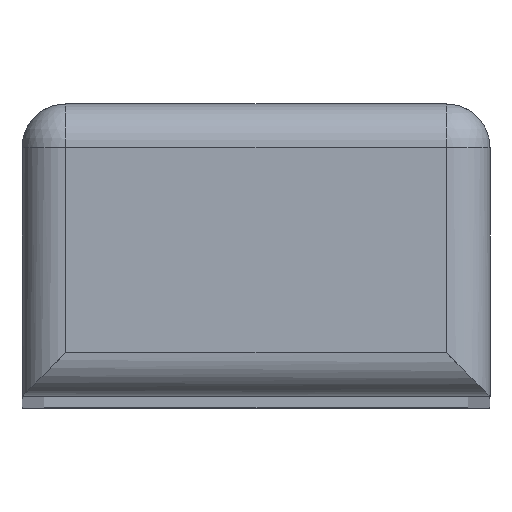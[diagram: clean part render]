
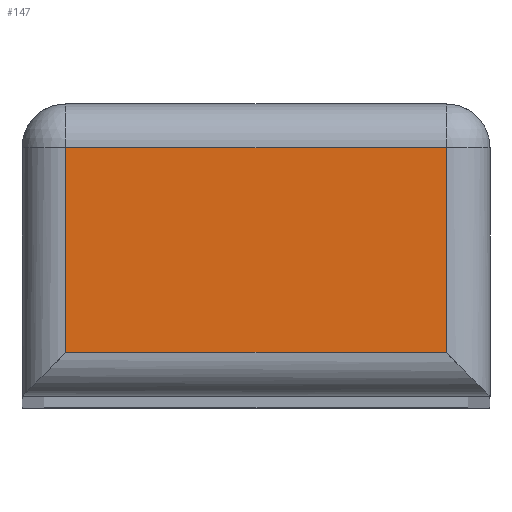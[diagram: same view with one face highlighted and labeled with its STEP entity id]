
A CAD part, top view. The second image highlights one B-rep face of the part: STEP entity #147.
In plain terms, the highlighted planar face has unit normal (0, 0, 1).
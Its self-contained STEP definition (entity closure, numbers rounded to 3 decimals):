
#55 = VECTOR ( 'NONE', #291, 1000. ) ;
#61 = VECTOR ( 'NONE', #294, 1000. ) ;
#67 = VECTOR ( 'NONE', #288, 1000. ) ;
#71 = AXIS2_PLACEMENT_3D ( 'NONE', #313, #314, #315 ) ;
#79 = VECTOR ( 'NONE', #285, 1000. ) ;
#82 = FACE_OUTER_BOUND ( 'NONE', #1043, .T. ) ;
#138 = EDGE_CURVE ( 'NONE', #983, #984, #283, .T. ) ;
#139 = EDGE_CURVE ( 'NONE', #998, #983, #286, .T. ) ;
#140 = EDGE_CURVE ( 'NONE', #984, #987, #289, .T. ) ;
#141 = EDGE_CURVE ( 'NONE', #987, #998, #292, .T. ) ;
#147 = ADVANCED_FACE ( 'NONE', ( #82 ), #312, .T. ) ;
#283 = LINE ( 'NONE', #284, #79 ) ;
#284 = CARTESIAN_POINT ( 'NONE',  ( -16., -3., 232. ) ) ;
#285 = DIRECTION ( 'NONE',  ( -1., 0., 0. ) ) ;
#286 = LINE ( 'NONE', #287, #67 ) ;
#287 = CARTESIAN_POINT ( 'NONE',  ( 13., -20., 232. ) ) ;
#288 = DIRECTION ( 'NONE',  ( 0., 1., 0. ) ) ;
#289 = LINE ( 'NONE', #290, #55 ) ;
#290 = CARTESIAN_POINT ( 'NONE',  ( -13., -20., 232. ) ) ;
#291 = DIRECTION ( 'NONE',  ( 0., -1., 0. ) ) ;
#292 = LINE ( 'NONE', #293, #61 ) ;
#293 = CARTESIAN_POINT ( 'NONE',  ( 16., -17., 232. ) ) ;
#294 = DIRECTION ( 'NONE',  ( 1., 0., 0. ) ) ;
#312 = PLANE ( 'NONE',  #71 ) ;
#313 = CARTESIAN_POINT ( 'NONE',  ( -16., -20., 232. ) ) ;
#314 = DIRECTION ( 'NONE',  ( 0., 0., 1. ) ) ;
#315 = DIRECTION ( 'NONE',  ( 1., 0., 0. ) ) ;
#687 = CARTESIAN_POINT ( 'NONE',  ( 13., -3., 232. ) ) ;
#688 = CARTESIAN_POINT ( 'NONE',  ( -13., -3., 232. ) ) ;
#691 = CARTESIAN_POINT ( 'NONE',  ( -13., -17., 232. ) ) ;
#702 = CARTESIAN_POINT ( 'NONE',  ( 13., -17., 232. ) ) ;
#983 = VERTEX_POINT ( 'NONE', #687 ) ;
#984 = VERTEX_POINT ( 'NONE', #688 ) ;
#987 = VERTEX_POINT ( 'NONE', #691 ) ;
#998 = VERTEX_POINT ( 'NONE', #702 ) ;
#1043 = EDGE_LOOP ( 'NONE', ( #1067, #1069, #1068, #1070 ) ) ;
#1067 = ORIENTED_EDGE ( 'NONE', *, *, #139, .T. ) ;
#1068 = ORIENTED_EDGE ( 'NONE', *, *, #140, .T. ) ;
#1069 = ORIENTED_EDGE ( 'NONE', *, *, #138, .T. ) ;
#1070 = ORIENTED_EDGE ( 'NONE', *, *, #141, .T. ) ;
